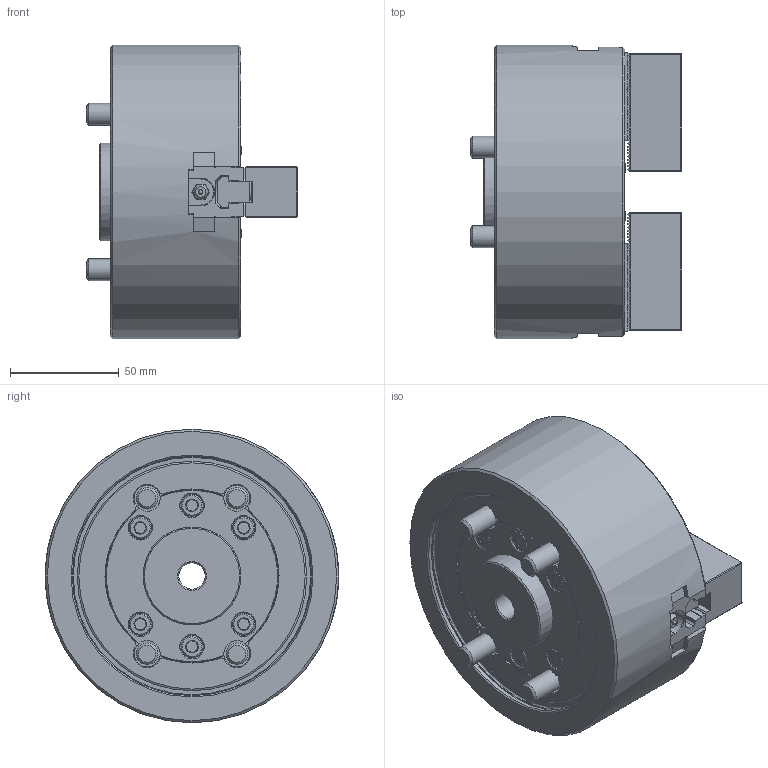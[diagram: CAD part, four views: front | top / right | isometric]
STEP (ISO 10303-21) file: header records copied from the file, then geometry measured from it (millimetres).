
FILE_DESCRIPTION (( 'STEP AP214' ), '1' );
FILE_NAME ('DT1_BT205_OUTSIDE_VIEW_OC.STEP', '2024-05-08T23:43:30', ( '' ), ( '' ), 'SwSTEP 2.0', 'SolidWorks 2022', '' );
FILE_SCHEMA (( 'AUTOMOTIVE_DESIGN' ));
Length unit declared in the file: millimetre
Products named in the file (9): DT1_BT205_M4x8^DT1-BT205_ﾃﾞﾌｫﾙﾄ; DT1_BT205_M10x60^DT1-BT205_ﾃﾞﾌｫﾙﾄ; DT1_BT205_M8x20^DT1-BT205_ﾃﾞﾌｫﾙﾄ; DT1_BT205_SOFTJAW^DT1-BT205_ﾃﾞﾌｫﾙﾄ; DT1_BT205_TNUT^DT1-BT205_ﾃﾞﾌｫﾙﾄ; DT1_BT205_OUTSIDE_VIEW_OC; DT1_BT205_COVER^DT1-BT205_ﾃﾞﾌｫﾙﾄ; DT1_BT205_BASE^DT1-BT205_ﾃﾞﾌｫﾙﾄ; DT1_BT205_DRAWNUT^DT1-BT205_ﾃﾞﾌｫﾙﾄ
Assembly tree (19 placements, depth 2):
  DT1_BT205_OUTSIDE_VIEW_OC
    DT1_BT205_SOFTJAW^DT1-BT205_ﾃﾞﾌｫﾙﾄ  x2
    DT1_BT205_TNUT^DT1-BT205_ﾃﾞﾌｫﾙﾄ  x2
    DT1_BT205_DRAWNUT^DT1-BT205_ﾃﾞﾌｫﾙﾄ
    DT1_BT205_COVER^DT1-BT205_ﾃﾞﾌｫﾙﾄ
    DT1_BT205_BASE^DT1-BT205_ﾃﾞﾌｫﾙﾄ
    DT1_BT205_M4x8^DT1-BT205_ﾃﾞﾌｫﾙﾄ  x4
    DT1_BT205_M8x20^DT1-BT205_ﾃﾞﾌｫﾙﾄ  x4
    DT1_BT205_M10x60^DT1-BT205_ﾃﾞﾌｫﾙﾄ  x4
Bounding box: 97 x 135 x 135 mm (x, y, z)
Volume: 826296.9 mm3; surface area: 136812.8 mm2
Topology: 19 solids, 27 shells, 2485 faces, 6889 edges, 4543 vertices
Faces by surface type: plane 1772, cylinder 450, cone 122, bspline 122, torus 15, sphere 4
Full cylindrical faces by diameter (mm): 3.3 x4, 4 x4, 4.5 x4, 6.8 x4, 7.5 x4, 8 x4, 8.5 x8, 10 x4, 10.22 x6, 10.5 x6, 12 x5, 13.27 x4, 13.5 x4, 16.27 x4, 17 x4, 33 x1, 36 x2, 40.5 x1, 43.5 x1, 45 x2, 110 x1, 110.8 x1, 135 x1
Entity records: 67384 total; most frequent: CARTESIAN_POINT 18057, ORIENTED_EDGE 10808, DIRECTION 8947, EDGE_CURVE 5404, LINE 4123, VECTOR 4123, VERTEX_POINT 3632, AXIS2_PLACEMENT_3D 2412
